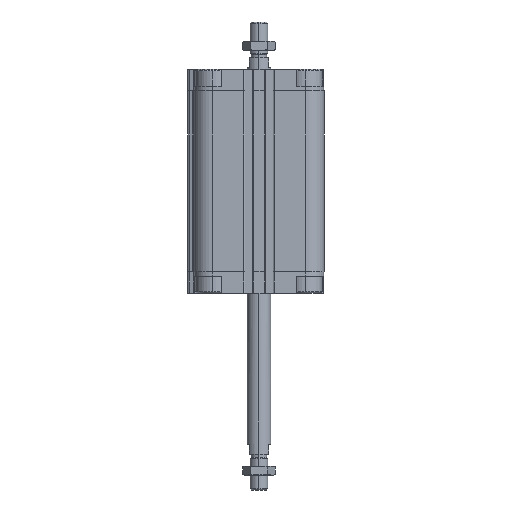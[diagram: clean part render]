
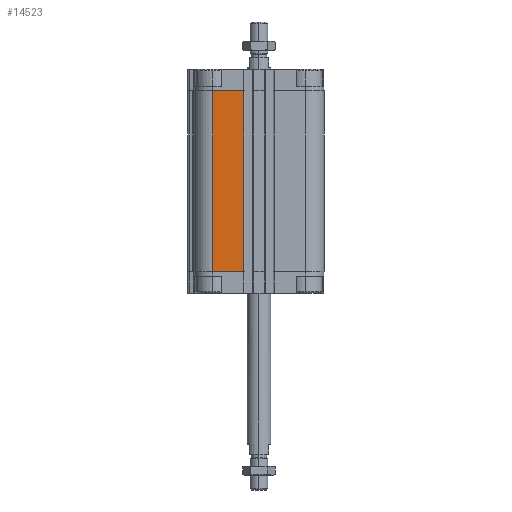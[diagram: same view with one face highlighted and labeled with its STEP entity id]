
A CAD part, left-side view. The second image highlights one B-rep face of the part: STEP entity #14523.
In plain terms, the highlighted planar face has unit normal (-1, 0, 0).
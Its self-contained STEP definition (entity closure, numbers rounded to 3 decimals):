
#261 = VERTEX_POINT ( 'NONE', #9549 ) ;
#2102 = ORIENTED_EDGE ( 'NONE', *, *, #2572, .T. ) ;
#2410 = CARTESIAN_POINT ( 'NONE',  ( -43.5, 31., -135.5 ) ) ;
#2572 = EDGE_CURVE ( 'NONE', #14609, #13793, #8937, .T. ) ;
#2865 = EDGE_LOOP ( 'NONE', ( #19148, #9794, #2102, #17362 ) ) ;
#2953 = VECTOR ( 'NONE', #12057, 1000. ) ;
#3845 = DIRECTION ( 'NONE',  ( 0., -1., 0. ) ) ;
#4054 = PLANE ( 'NONE',  #16697 ) ;
#4825 = CARTESIAN_POINT ( 'NONE',  ( -43.5, 31., -14.5 ) ) ;
#4915 = VERTEX_POINT ( 'NONE', #4825 ) ;
#5266 = CARTESIAN_POINT ( 'NONE',  ( -43.5, 10.05, -135.5 ) ) ;
#6943 = CARTESIAN_POINT ( 'NONE',  ( -43.5, 10.05, -135.5 ) ) ;
#7069 = DIRECTION ( 'NONE',  ( -1., 0., 0. ) ) ;
#7174 = FACE_OUTER_BOUND ( 'NONE', #2865, .T. ) ;
#7377 = CARTESIAN_POINT ( 'NONE',  ( -43.5, 31., -135.5 ) ) ;
#7698 = LINE ( 'NONE', #14039, #17831 ) ;
#8475 = LINE ( 'NONE', #5266, #15425 ) ;
#8937 = LINE ( 'NONE', #2410, #2953 ) ;
#9526 = EDGE_CURVE ( 'NONE', #4915, #261, #11077, .T. ) ;
#9549 = CARTESIAN_POINT ( 'NONE',  ( -43.5, 10.05, -14.5 ) ) ;
#9794 = ORIENTED_EDGE ( 'NONE', *, *, #18606, .F. ) ;
#11077 = LINE ( 'NONE', #13011, #14091 ) ;
#12057 = DIRECTION ( 'NONE',  ( 0., -1., 0. ) ) ;
#13011 = CARTESIAN_POINT ( 'NONE',  ( -43.5, 31., -14.5 ) ) ;
#13793 = VERTEX_POINT ( 'NONE', #6943 ) ;
#14039 = CARTESIAN_POINT ( 'NONE',  ( -43.5, 31., -135.5 ) ) ;
#14091 = VECTOR ( 'NONE', #16257, 1000. ) ;
#14523 = ADVANCED_FACE ( 'NONE', ( #7174 ), #4054, .T. ) ;
#14609 = VERTEX_POINT ( 'NONE', #7377 ) ;
#15425 = VECTOR ( 'NONE', #15463, 1000. ) ;
#15463 = DIRECTION ( 'NONE',  ( 0., 0., 1. ) ) ;
#16257 = DIRECTION ( 'NONE',  ( 0., -1., 0. ) ) ;
#16697 = AXIS2_PLACEMENT_3D ( 'NONE', #18663, #7069, #3845 ) ;
#17362 = ORIENTED_EDGE ( 'NONE', *, *, #18502, .T. ) ;
#17831 = VECTOR ( 'NONE', #19099, 1000. ) ;
#18502 = EDGE_CURVE ( 'NONE', #13793, #261, #8475, .T. ) ;
#18606 = EDGE_CURVE ( 'NONE', #14609, #4915, #7698, .T. ) ;
#18663 = CARTESIAN_POINT ( 'NONE',  ( -43.5, 31., -135.5 ) ) ;
#19099 = DIRECTION ( 'NONE',  ( 0., 0., 1. ) ) ;
#19148 = ORIENTED_EDGE ( 'NONE', *, *, #9526, .F. ) ;
